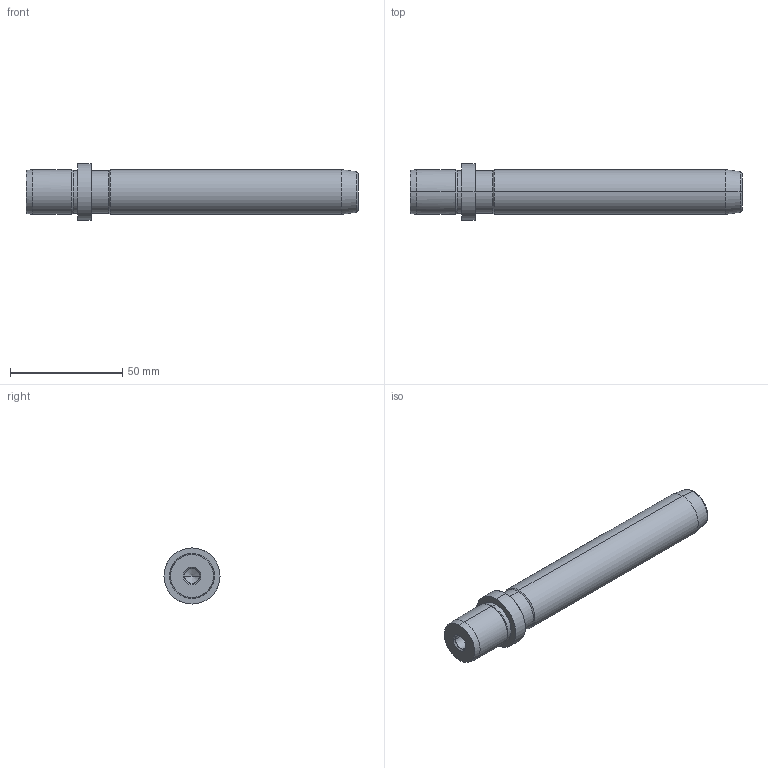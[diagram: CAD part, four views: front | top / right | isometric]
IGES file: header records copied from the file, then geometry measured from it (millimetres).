
Start section: START RECORD GO HERE.
Global section: file name: 718-20x125.igs; native system: DASSAULT SYSTEMES CATIA V5 R20 - www.3ds.com; preprocessor: CATIA Version 5 Release 20 ; author: Utente; organization: NB04-ASUS; date: 20210102.162603; units: millimetre
Bounding box: 148 x 25 x 25 mm (x, y, z)
Surface area: 11292.5 mm2 (no closed solid volume)
Topology: 0 solids, 0 shells, 36 faces, 196 edges, 192 vertices
Faces by surface type: revolution 32, plane 4
